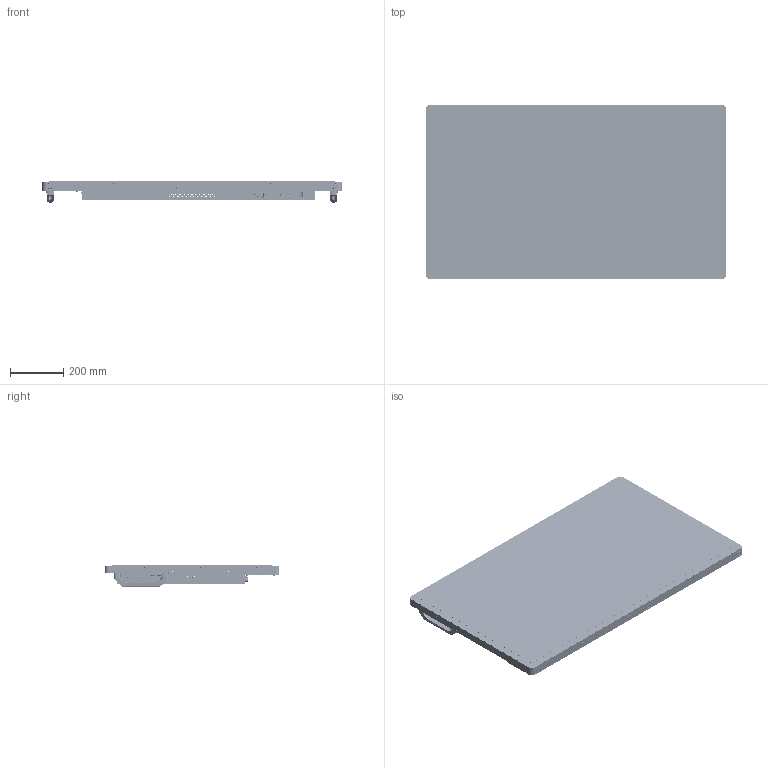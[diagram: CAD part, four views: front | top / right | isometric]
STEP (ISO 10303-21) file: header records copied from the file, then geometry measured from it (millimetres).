
FILE_DESCRIPTION (( 'STEP AP214' ), '1' );
FILE_NAME ('URP49-T.STEP', '2022-04-28T20:16:19', ( '' ), ( '' ), 'SwSTEP 2.0', 'SolidWorks 2021', '' );
FILE_SCHEMA (( 'AUTOMOTIVE_DESIGN' ));
Length unit declared in the file: millimetre
Products named in the file (1): URP49-T
Bounding box: 1127.2 x 657.4 x 79.19 mm (x, y, z)
Surface area: 5534745.5 mm2 (no closed solid volume)
Topology: 0 solids, 104 shells, 19675 faces, 55530 edges, 36561 vertices
Faces by surface type: cylinder 9965, plane 8084, bspline 1361, cone 265
Entity records: 933866 total; most frequent: CARTESIAN_POINT 182053, ORIENTED_EDGE 110938, DIRECTION 110702, EDGE_CURVE 55477, AXIS2_PLACEMENT_3D 39795, VERTEX_POINT 36559, VECTOR 31112, LINE 31112
